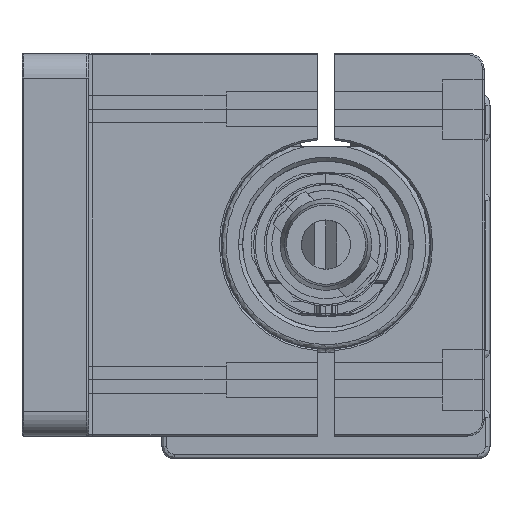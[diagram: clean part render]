
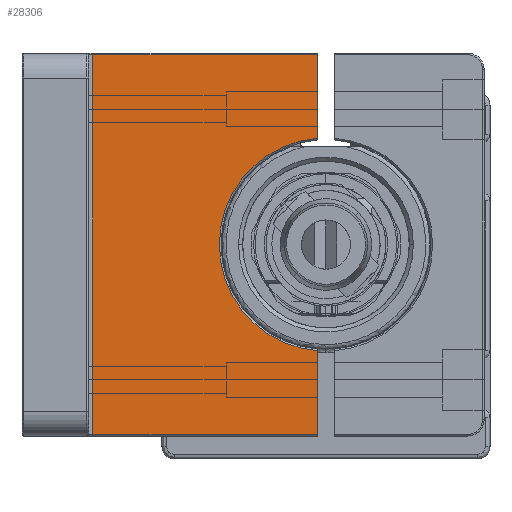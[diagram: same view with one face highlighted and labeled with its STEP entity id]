
A CAD part, front view. The second image highlights one B-rep face of the part: STEP entity #28306.
In plain terms, the highlighted planar face has unit normal (0, -1, 0) as drawn and (0, 0, 1) by its records, which use the part's own axes.
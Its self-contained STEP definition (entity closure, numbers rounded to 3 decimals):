
#224 = VERTEX_POINT ( 'NONE', #4624 ) ;
#4114 = VECTOR ( 'NONE', #22479, 1000. ) ;
#4444 = ORIENTED_EDGE ( 'NONE', *, *, #49940, .F. ) ;
#4624 = CARTESIAN_POINT ( 'NONE',  ( 10.239, 34., 8. ) ) ;
#5002 = EDGE_CURVE ( 'NONE', #50442, #224, #53419, .T. ) ;
#6279 = CARTESIAN_POINT ( 'NONE',  ( 45.8, 7., 8. ) ) ;
#6555 = CARTESIAN_POINT ( 'NONE',  ( 45.8, 34., 8. ) ) ;
#7027 = PLANE ( 'NONE',  #51484 ) ;
#7717 = DIRECTION ( 'NONE',  ( 0., 0., -1. ) ) ;
#11269 = DIRECTION ( 'NONE',  ( 1., 0., 0. ) ) ;
#12843 = LINE ( 'NONE', #42780, #23070 ) ;
#13193 = EDGE_CURVE ( 'NONE', #47789, #224, #15919, .T. ) ;
#13259 = AXIS2_PLACEMENT_3D ( 'NONE', #41295, #7717, #15542 ) ;
#13514 = ORIENTED_EDGE ( 'NONE', *, *, #26610, .T. ) ;
#15288 = CARTESIAN_POINT ( 'NONE',  ( 35.761, 34., 8. ) ) ;
#15542 = DIRECTION ( 'NONE',  ( 1., 0., 0. ) ) ;
#15919 = CIRCLE ( 'NONE', #13259, 12.8 ) ;
#16971 = CARTESIAN_POINT ( 'NONE',  ( 0., 7., 8. ) ) ;
#17938 = CARTESIAN_POINT ( 'NONE',  ( 45.8, 34., 8. ) ) ;
#20215 = EDGE_LOOP ( 'NONE', ( #45166, #28070, #13514, #42483, #4444, #25842 ) ) ;
#20470 = CARTESIAN_POINT ( 'NONE',  ( 0.2, 7., 8. ) ) ;
#22479 = DIRECTION ( 'NONE',  ( 1., 0., 0. ) ) ;
#23070 = VECTOR ( 'NONE', #42212, 1000. ) ;
#24309 = VECTOR ( 'NONE', #49241, 1000. ) ;
#24575 = EDGE_CURVE ( 'NONE', #50442, #27138, #37552, .T. ) ;
#24865 = DIRECTION ( 'NONE',  ( 0., 0., 1. ) ) ;
#25124 = DIRECTION ( 'NONE',  ( 1., 0., 0. ) ) ;
#25842 = ORIENTED_EDGE ( 'NONE', *, *, #13193, .T. ) ;
#26455 = DIRECTION ( 'NONE',  ( 1., 0., 0. ) ) ;
#26610 = EDGE_CURVE ( 'NONE', #27138, #45883, #51002, .T. ) ;
#27138 = VERTEX_POINT ( 'NONE', #20470 ) ;
#28070 = ORIENTED_EDGE ( 'NONE', *, *, #24575, .T. ) ;
#28306 = ADVANCED_FACE ( 'NONE', ( #28787 ), #7027, .T. ) ;
#28787 = FACE_OUTER_BOUND ( 'NONE', #20215, .T. ) ;
#29061 = CARTESIAN_POINT ( 'NONE',  ( 0., 0., 8. ) ) ;
#30295 = CARTESIAN_POINT ( 'NONE',  ( 0.2, 34., 8. ) ) ;
#34378 = VERTEX_POINT ( 'NONE', #17938 ) ;
#36713 = LINE ( 'NONE', #40946, #40190 ) ;
#37552 = LINE ( 'NONE', #45926, #24309 ) ;
#38966 = VECTOR ( 'NONE', #26455, 1000. ) ;
#40190 = VECTOR ( 'NONE', #11269, 1000. ) ;
#40946 = CARTESIAN_POINT ( 'NONE',  ( 45.8, 34., 8. ) ) ;
#41295 = CARTESIAN_POINT ( 'NONE',  ( 23., 35., 8. ) ) ;
#42212 = DIRECTION ( 'NONE',  ( 0., 1., 0. ) ) ;
#42483 = ORIENTED_EDGE ( 'NONE', *, *, #49005, .T. ) ;
#42780 = CARTESIAN_POINT ( 'NONE',  ( 45.8, 34., 8. ) ) ;
#45166 = ORIENTED_EDGE ( 'NONE', *, *, #5002, .F. ) ;
#45883 = VERTEX_POINT ( 'NONE', #6279 ) ;
#45926 = CARTESIAN_POINT ( 'NONE',  ( 0.2, 7., 8. ) ) ;
#47789 = VERTEX_POINT ( 'NONE', #15288 ) ;
#49005 = EDGE_CURVE ( 'NONE', #45883, #34378, #12843, .T. ) ;
#49241 = DIRECTION ( 'NONE',  ( 0., -1., 0. ) ) ;
#49940 = EDGE_CURVE ( 'NONE', #47789, #34378, #36713, .T. ) ;
#50442 = VERTEX_POINT ( 'NONE', #30295 ) ;
#51002 = LINE ( 'NONE', #16971, #38966 ) ;
#51484 = AXIS2_PLACEMENT_3D ( 'NONE', #29061, #24865, #25124 ) ;
#53419 = LINE ( 'NONE', #6555, #4114 ) ;
